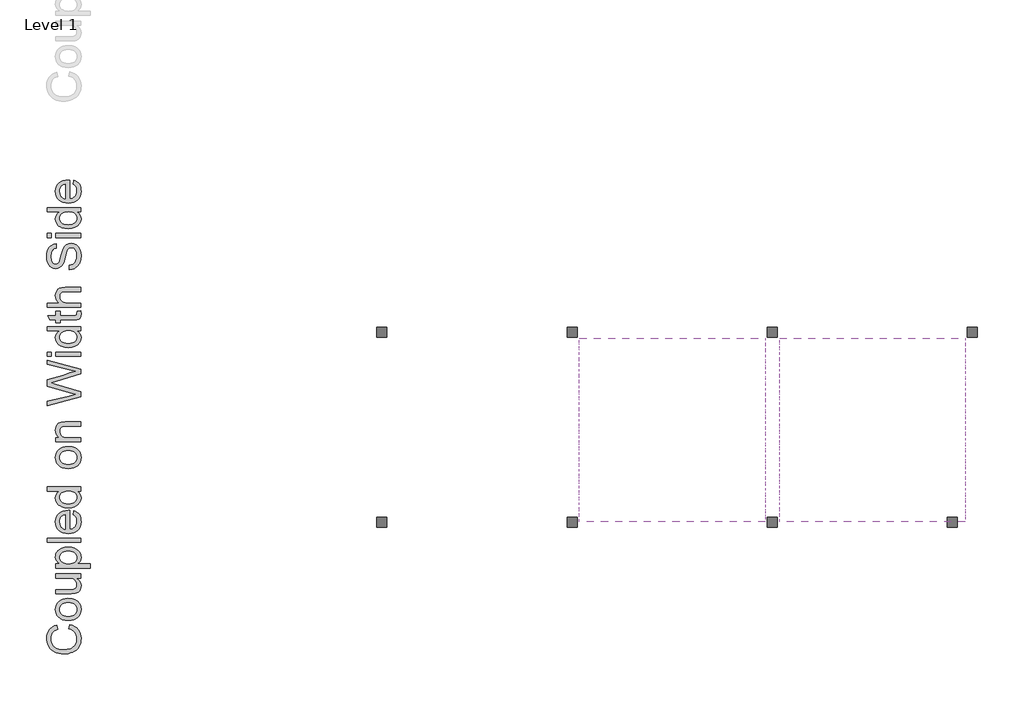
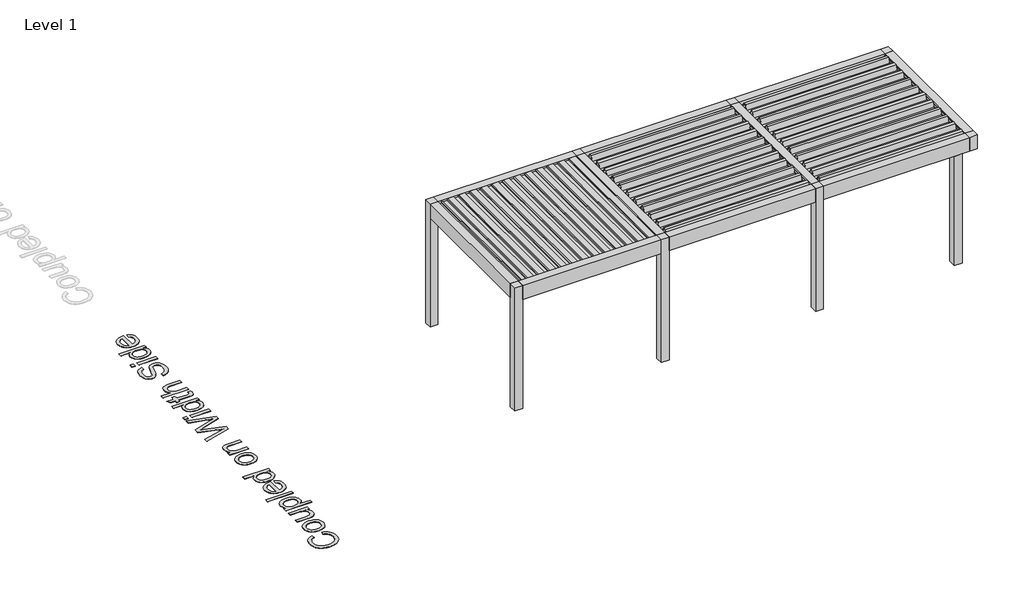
# One storey, part 46 of 80: 4 proxies.
"""IFC4 building model written with IfcOpenShell, lengths in millimetres."""

from ifc_helpers import new_model, si_unit, origin, origin_with_axes, place, context, project, spatial, polyline, outline, extrude, transform, mapped, element, save
from components import generic_models_4f0bc909, generic_models_67e6f143

model = new_model("IFC4")

# Units and contexts
model_context = context("Model", 3, world=origin())
ifc_project = project(units=[si_unit("LENGTHUNIT", "METRE", prefix="MILLI")], contexts=[model_context])

# Site, building, storey
site = spatial("IfcSite", under=ifc_project)
building = spatial("IfcBuilding", under=site)
storey = spatial("IfcBuildingStorey", under=building, Name="Level 1", Elevation=0.0)

# Proxies
placement = place(None, origin())
generic_models_shape = generic_models_4f0bc909(model_context)
element("IfcBuildingElementProxy", 1, Name="Renson_Amani_Fixed_Roof : Renson_Amani_Fixed_Roof", ObjectType="Renson_Amani_Fixed_Roof : Renson_Amani_Fixed_Roof", at=placement, inside=storey, context=model_context, shape_type="MappedRepresentation", body=[
    mapped(generic_models_shape, transform((84673.165057, 45689.8912474, 0.0), x_axis=(0.0, 1.0, 0.0), y_axis=(-1.0, 0.0, 0.0), z_axis=(0.0, 0.0, 1.0))),
])
element("IfcBuildingElementProxy", 2, Name="Renson_Amani_Fixed_Roof : Renson_Amani_Fixed_Roof", ObjectType="Renson_Amani_Fixed_Roof : Renson_Amani_Fixed_Roof", at=placement, inside=storey, context=model_context, shape_type="MappedRepresentation", body=[
    mapped(generic_models_shape, transform((87673.165057, 45689.8912474, 0.0), x_axis=(0.0, 1.0, 0.0), y_axis=(-1.0, 0.0, 0.0), z_axis=(0.0, 0.0, 1.0))),
])
generic_models_2_shape = generic_models_67e6f143(model_context)
element("IfcBuildingElementProxy", 3, Name="Renson_Amani_Patio_Cover : Renson_Amani_Patio_Cover", ObjectType="Renson_Amani_Patio_Cover : Renson_Amani_Patio_Cover", at=placement, inside=storey, context=model_context, shape_type="MappedRepresentation", body=[
    mapped(generic_models_2_shape, transform((80353.165057, 47104.0136657, 0.0), x_axis=(1.0, 0.0, 0.0), y_axis=(0.0, 1.0, 0.0), z_axis=(0.0, 0.0, 1.0))),
])
element("IfcBuildingElementProxy", 4, Name="500mm Arial", ObjectType="500mm Arial", at=placement, inside=storey, context=model_context, shape_type="SweptSolid", body=[
    extrude(outline(polyline([(74234.4472638, 44082.6564057), (74250.6340716, 44145.4415995), (74289.6793805, 44133.017918), (74323.7966034, 44116.4708924), (74352.9857405, 44095.8005228), (74377.2467916, 44071.0068092), (74396.3191738, 44042.6492387), (74409.942304, 44011.2872986), (74418.116182, 43976.9209889), (74420.8408081, 43939.5503096), (74418.779136, 43901.2637573), (74412.59412, 43866.7250029), (74402.2857599, 43835.9340464), (74387.8540558, 43808.8908876), (74369.5136055, 43785.2238126), (74347.4790069, 43764.5611072), (74321.7502598, 43746.9027714), (74292.3273644, 43732.2488053), (74260.4825792, 43720.7409966), (74227.4881628, 43712.5211333), (74193.3441151, 43707.5892153), (74158.0504362, 43705.9452426), (74120.1815833, 43707.8038131), (74084.8112623, 43713.3795246), (74051.9394732, 43722.6723771), (74021.566216, 43735.6823706), (73994.1934963, 43752.1182651), (73970.3233197, 43771.6888208), (73949.9556863, 43794.3940377), (73933.0905961, 43820.2339158), (73919.8660048, 43848.3309032), (73910.4198682, 43877.807448), (73904.7521862, 43908.6635504), (73902.8629589, 43940.8992102), (73905.3078413, 43976.8098579), (73912.6424886, 44009.7391286), (73924.8669007, 44039.6870222), (73941.9810777, 44066.6535389), (73963.5328312, 44090.1941545), (73989.0699731, 44109.8643449), (74018.5925032, 44125.6641102), (74052.1004216, 44137.5934503), (74067.060956, 44074.8082565), (74042.3707092, 44064.9214278), (74021.2749761, 44053.0419051), (74003.7737566, 44039.1696882), (73989.8670507, 44023.3047771), (73979.2712828, 44005.3552014), (73971.7028772, 43985.2289906), (73967.1618338, 43962.9261447), (73965.6481527, 43938.4466636), (73967.3266143, 43910.2806983), (73972.3619991, 43884.5212945), (73980.7543071, 43861.168452), (73992.5035383, 43840.2221709), (74007.0808624, 43821.9468663), (74023.9574489, 43806.6069536), (74043.1332979, 43794.2024325), (74064.6084094, 43784.7333033), (74110.563002, 43772.7311532), (74157.9278088, 43768.7304365), (74215.9305368, 43773.4669172), (74266.0851154, 43787.6763592), (74287.7403358, 43798.4675644), (74306.4754928, 43811.8952572), (74322.2905865, 43827.9594377), (74335.1856169, 43846.6601058), (74352.3381149, 43888.3380702), (74358.0556142, 43933.2963156), (74356.1089053, 43960.5923933), (74350.2687787, 43985.7041715), (74340.5352342, 44008.6316505), (74326.908272, 44029.3748301), (74309.4492056, 44047.443201), (74288.2193488, 44062.3462539), (74263.2187015, 44074.0839888), (74234.4472638, 44082.6564057)])), origin_with_axes(), (0.0, 0.0, 1.0), 5.0),
    extrude(outline(polyline([(74228.5611519, 44208.2267934), (74180.790142, 44211.6220376), (74139.6256796, 44221.8077704), (74105.0677647, 44238.7839916), (74077.1163972, 44262.5507013), (74059.2511278, 44286.4783594), (74046.4902211, 44312.889221), (74038.8336771, 44341.783286), (74036.2814958, 44373.1605545), (74039.3893322, 44407.7989437), (74048.7128415, 44439.1187306), (74064.2520237, 44467.1199154), (74086.0068788, 44491.802498), (74113.2416427, 44511.9478693), (74145.2205516, 44526.3374203), (74181.9436053, 44534.9711509), (74223.410804, 44537.8490611), (74286.8397913, 44532.7600268), (74312.8751067, 44526.398734), (74335.1243032, 44517.492924), (74354.3423053, 44506.1537279), (74371.2840376, 44492.4922767), (74385.9495001, 44476.5085705), (74398.3386927, 44458.2026091), (74415.2152792, 44417.4750065), (74420.8408081, 44373.1605545), (74417.7444679, 44338.0163277), (74408.4554476, 44306.4053008), (74392.9737469, 44278.327474), (74371.299366, 44253.7828471), (74343.8001869, 44233.8520736), (74310.8440915, 44219.6158068), (74272.4310798, 44211.0740467), (74228.5611519, 44208.2267934)]), holes=[polyline([(74228.4385246, 44271.0119872), (74258.892256, 44272.8284046), (74285.2609644, 44278.2776566), (74307.5446499, 44287.3597434), (74325.7433123, 44300.0746648), (74339.8799444, 44315.541037), (74349.9775387, 44332.8774761), (74356.0360954, 44352.0839819), (74358.0556142, 44373.1605545), (74356.024599, 44394.1298283), (74349.9315535, 44413.259692), (74339.7764776, 44430.5501458), (74325.5593713, 44446.0011896), (74307.1806, 44458.716111), (74284.5405289, 44467.7981978), (74257.639158, 44473.2474499), (74226.4764873, 44475.0638672), (74196.9884461, 44473.2359535), (74171.3095164, 44467.7522126), (74149.4396982, 44458.6126442), (74131.3789915, 44445.8172486), (74117.2423594, 44430.3087232), (74107.1447651, 44413.0297658), (74101.0862085, 44393.9803762), (74099.0666896, 44373.1605545), (74101.0785443, 44352.0839819), (74107.1141083, 44332.8774761), (74117.1733816, 44315.541037), (74131.2563642, 44300.0746648), (74149.4013772, 44287.3597434), (74171.6467416, 44278.2776566), (74197.9924574, 44272.8284046), (74228.4385246, 44271.0119872)])]), origin_with_axes(), (0.0, 0.0, 1.0), 5.0),
    extrude(outline(polyline([(74412.9926588, 44843.926881), (74349.5943283, 44843.926881), (74380.7646632, 44821.2101678), (74403.0291881, 44794.753321), (74416.3879031, 44764.5563406), (74420.8408081, 44730.6192265), (74417.7138111, 44700.0390357), (74408.3328202, 44671.5741663), (74394.2306771, 44647.6924934), (74376.9402233, 44630.8618922), (74355.9402927, 44619.5341924), (74330.7097192, 44612.1612241), (74272.3391093, 44608.4824041), (74044.129645, 44608.4824041), (74044.129645, 44671.267598), (74242.7859224, 44671.267598), (74306.7973896, 44675.0690453), (74328.1498737, 44684.2201099), (74344.3826667, 44699.9010799), (74354.6373773, 44721.0696231), (74358.0556142, 44746.683407), (74354.5607353, 44773.7687189), (74344.0760984, 44799.1065913), (74327.5673939, 44819.9992229), (74306.0003119, 44833.7488125), (74276.4624534, 44841.3823639), (74236.0414192, 44843.926881), (74044.129645, 44843.926881), (74044.129645, 44906.7120749), (74412.9926588, 44906.7120749), (74412.9926588, 44843.926881)])), origin_with_axes(), (0.0, 0.0, 1.0), 5.0),
    extrude(outline(polyline([(74554.259345, 44993.0417164), (74044.129645, 44993.0417164), (74044.129645, 45055.8269103), (74105.6885655, 45055.8269103), (74075.3229725, 45076.3056747), (74053.6332632, 45099.2369857), (74040.6194376, 45125.969744), (74036.2814958, 45157.8528503), (74037.799009, 45179.7494932), (74042.3515487, 45200.3125639), (74049.9391148, 45219.5420623), (74060.5617075, 45237.4379885), (74073.943415, 45253.6094679), (74089.8083261, 45267.6656258), (74128.9877586, 45289.4319772), (74175.2489195, 45302.5837585), (74225.7407233, 45306.9676856), (74279.4361662, 45302.0166071), (74327.460095, 45287.1633716), (74348.735937, 45276.1422401), (74367.3752914, 45262.8831599), (74383.3781582, 45247.3861308), (74396.7445374, 45229.651153), (74414.8167404, 45190.9469014), (74420.8408081, 45150.2499557), (74416.8094345, 45121.3865475), (74404.7153139, 45095.6194794), (74386.4591699, 45073.5618881), (74363.9417261, 45055.8269103), (74554.259345, 45055.8269103), (74554.259345, 44993.0417164)]), holes=[polyline([(74231.5042079, 45055.8269103), (74261.762502, 45057.5245324), (74287.7901531, 45062.6173988), (74309.5871614, 45071.1055094), (74327.1535266, 45082.9888642), (74340.6731899, 45097.2941089), (74350.3300923, 45113.0478889), (74356.1242337, 45130.2502043), (74358.0556142, 45148.901055), (74356.0552559, 45167.8201531), (74350.0541808, 45185.336701), (74340.0523891, 45201.4506988), (74326.0498806, 45216.1621465), (74307.8473861, 45228.4210476), (74285.245636, 45237.1774055), (74258.2446304, 45242.4312202), (74226.8443693, 45244.1824918), (74196.8466583, 45242.4733734), (74170.8649923, 45237.346018), (74148.8993715, 45228.8004259), (74130.9497959, 45216.8365968), (74117.0009369, 45202.4968632), (74107.0374662, 45186.8235574), (74101.0593838, 45169.8166793), (74099.0666896, 45151.476229), (74101.1858432, 45133.1932603), (74107.5433039, 45115.9909449), (74118.1390718, 45099.8692829), (74132.9731468, 45084.8282742), (74151.8462596, 45072.1401775), (74174.5591407, 45063.0772512), (74201.1117901, 45057.6394955), (74231.5042079, 45055.8269103)])]), origin_with_axes(), (0.0, 0.0, 1.0), 5.0),
    extrude(outline(polyline([(74412.9926588, 45377.6010287), (73910.7111081, 45377.6010287), (73910.7111081, 45440.3862226), (74412.9926588, 45440.3862226), (74412.9926588, 45377.6010287)])), origin_with_axes(), (0.0, 0.0, 1.0), 5.0),
    extrude(outline(polyline([(74303.1185696, 45792.8171739), (74310.9667188, 45854.3760945), (74335.6224767, 45844.937622), (74357.3505071, 45832.1958758), (74376.1508099, 45816.1508559), (74392.0233851, 45796.8025622), (74404.6310077, 45774.3502642), (74413.6364523, 45748.9932313), (74419.0397191, 45720.7314634), (74420.8408081, 45689.5649606), (74417.7329716, 45650.6077902), (74408.4094623, 45615.8965911), (74392.8702801, 45585.4313634), (74371.115425, 45559.212107), (74343.7503696, 45538.1278701), (74311.3805861, 45523.067701), (74274.0060746, 45514.0315995), (74231.6268352, 45511.0195656), (74187.8105567, 45514.0622563), (74149.1906115, 45523.1903283), (74115.7669994, 45538.4037816), (74087.5397204, 45559.7026163), (74065.1142471, 45585.8528948), (74049.0960519, 45615.6206796), (74039.4851348, 45649.0059706), (74036.2814958, 45686.008768), (74039.4774706, 45721.819781), (74049.0653951, 45754.2048929), (74065.0452693, 45783.1641037), (74087.4170931, 45808.6974134), (74115.5830584, 45829.5402277), (74148.9453568, 45844.4279522), (74187.5039884, 45853.3605869), (74231.2589532, 45856.3381318), (74248.181525, 45855.9702498), (74248.181525, 45573.8047595), (74273.2358217, 45577.4414263), (74295.1784499, 45584.6726067), (74314.0094095, 45595.4983009), (74329.7287006, 45609.9185087), (74342.1217253, 45627.1361525), (74350.9738858, 45646.3541546), (74356.2851821, 45667.5725151), (74358.0556142, 45690.7912339), (74354.7753331, 45724.2071818), (74344.9344897, 45752.3501545), (74327.9199474, 45775.2201518), (74303.1185696, 45792.8171739)]), holes=[polyline([(74185.3963312, 45573.8047595), (74185.3963312, 45793.5529379), (74152.2256379, 45785.0609952), (74128.4972492, 45768.4143349), (74115.6213794, 45751.2924937), (74106.4243295, 45731.8100764), (74100.9060996, 45709.9670829), (74099.0666896, 45685.7635133), (74104.9374731, 45643.4417555), (74112.2759525, 45625.0284952), (74122.5498236, 45608.4469807), (74135.2839056, 45594.5326106), (74150.0030175, 45584.1207838), (74166.7071594, 45577.2115), (74185.3963312, 45573.8047595)])]), origin_with_axes(), (0.0, 0.0, 1.0), 5.0),
    extrude(outline(polyline([(74412.9926588, 46146.7196533), (74353.7636576, 46146.7196533), (74383.1099109, 46127.9346789), (74404.0715205, 46105.1796447), (74416.6484862, 46078.4545506), (74420.8408081, 46047.7593966), (74414.7707551, 46007.1697498), (74396.5605964, 45970.0136683), (74367.4825903, 45938.5597577), (74328.8089956, 45915.0766237), (74282.1033106, 45900.4533144), (74228.9290339, 45895.5788779), (74176.4138791, 45900.0701039), (74128.9877586, 45913.543782), (74107.8575365, 45923.6452085), (74089.3484736, 45935.9845837), (74073.4605699, 45950.5619078), (74060.1938255, 45967.3771806), (74042.2595782, 46005.3456682), (74036.2814958, 46047.5141419), (74040.558124, 46078.2322885), (74053.3880085, 46105.3942425), (74073.0543669, 46128.417524), (74097.8404163, 46146.7196533), (73910.7111081, 46146.7196533), (73910.7111081, 46209.5048471), (74412.9926588, 46209.5048471), (74412.9926588, 46146.7196533)]), holes=[polyline([(74228.6837793, 45958.3640718), (74259.1298465, 45960.1345039), (74285.4755623, 45965.4458002), (74307.7209267, 45974.2979607), (74325.8659396, 45986.6909854), (74339.9489223, 46001.4905715), (74350.0081956, 46017.5624162), (74356.0437596, 46034.9065194), (74358.0556142, 46053.5228812), (74356.1357301, 46072.2273814), (74350.3760776, 46089.4680178), (74340.7766568, 46105.2447904), (74327.3374676, 46119.5576993), (74309.9512112, 46131.4410542), (74288.5105887, 46139.9291648), (74263.0156, 46145.0220312), (74233.4662452, 46146.7196533), (74201.069637, 46144.9913743), (74173.2868821, 46139.8065375), (74150.1179807, 46131.1651427), (74131.5629325, 46119.06719), (74117.3458263, 46104.4400486), (74107.1907503, 46088.2110876), (74101.0977048, 46070.3803072), (74099.0666896, 46050.9477072), (74101.0172306, 46031.9634634), (74106.8688536, 46014.6193602), (74116.6215586, 45998.9153975), (74130.2753455, 45984.8515754), (74148.1291186, 45973.2632926), (74170.4817819, 45964.9859477), (74197.3333355, 45960.0195407), (74228.6837793, 45958.3640718)])]), origin_with_axes(), (0.0, 0.0, 1.0), 5.0),
    extrude(outline(polyline([(74228.5611519, 46484.1900702), (74180.790142, 46487.5853144), (74139.6256796, 46497.7710472), (74105.0677647, 46514.7472684), (74077.1163972, 46538.5139782), (74059.2511278, 46562.4416363), (74046.4902211, 46588.8524978), (74038.8336771, 46617.7465629), (74036.2814958, 46649.1238314), (74039.3893322, 46683.7622205), (74048.7128415, 46715.0820074), (74064.2520237, 46743.0831922), (74086.0068788, 46767.7657748), (74113.2416427, 46787.9111462), (74145.2205516, 46802.3006971), (74181.9436053, 46810.9344277), (74223.410804, 46813.8123379), (74286.8397913, 46808.7233036), (74312.8751067, 46802.3620108), (74335.1243032, 46793.4562008), (74354.3423053, 46782.1170047), (74371.2840376, 46768.4555536), (74385.9495001, 46752.4718473), (74398.3386927, 46734.1658859), (74415.2152792, 46693.4382834), (74420.8408081, 46649.1238314), (74417.7444679, 46613.9796045), (74408.4554476, 46582.3685777), (74392.9737469, 46554.2907508), (74371.299366, 46529.7461239), (74343.8001869, 46509.8153504), (74310.8440915, 46495.5790836), (74272.4310798, 46487.0373236), (74228.5611519, 46484.1900702)]), holes=[polyline([(74228.4385246, 46546.975264), (74258.892256, 46548.7916814), (74285.2609644, 46554.2409334), (74307.5446499, 46563.3230202), (74325.7433123, 46576.0379417), (74339.8799444, 46591.5043139), (74349.9775387, 46608.8407529), (74356.0360954, 46628.0472587), (74358.0556142, 46649.1238314), (74356.024599, 46670.0931051), (74349.9315535, 46689.2229688), (74339.7764776, 46706.5134226), (74325.5593713, 46721.9644664), (74307.1806, 46734.6793879), (74284.5405289, 46743.7614746), (74257.639158, 46749.2107267), (74226.4764873, 46751.027144), (74196.9884461, 46749.1992304), (74171.3095164, 46743.7154894), (74149.4396982, 46734.5759211), (74131.3789915, 46721.7805254), (74117.2423594, 46706.2720001), (74107.1447651, 46688.9930426), (74101.0862085, 46669.943653), (74099.0666896, 46649.1238314), (74101.0785443, 46628.0472587), (74107.1141083, 46608.8407529), (74117.1733816, 46591.5043139), (74131.2563642, 46576.0379417), (74149.4013772, 46563.3230202), (74171.6467416, 46554.2409334), (74197.9924574, 46548.7916814), (74228.4385246, 46546.975264)])]), origin_with_axes(), (0.0, 0.0, 1.0), 5.0),
    extrude(outline(polyline([(74412.9926588, 46884.445681), (74044.129645, 46884.445681), (74044.129645, 46947.2308748), (74095.6331243, 46947.2308748), (74069.6667868, 46969.0432114), (74051.1194029, 46995.2394752), (74039.9909726, 47025.819666), (74036.2814958, 47060.783784), (74039.270537, 47091.7318568), (74048.2376606, 47120.0740989), (74062.0638923, 47143.7105171), (74079.6302575, 47160.5411183), (74100.8907712, 47171.9607886), (74125.7994479, 47179.3644138), (74186.4999771, 47182.6753517), (74412.9926588, 47182.6753517), (74412.9926588, 47119.8901579), (74194.961263, 47119.8901579), (74162.495677, 47118.0814047), (74139.4110818, 47112.6551453), (74122.8717204, 47102.6456893), (74110.0418358, 47087.0873466), (74101.8104762, 47067.1450768), (74099.0666896, 47043.9838395), (74100.6071955, 47024.9191215), (74105.228713, 47007.2109684), (74112.9312423, 46990.8593802), (74123.7147833, 46975.8643568), (74138.8056093, 46963.3372084), (74159.4299937, 46954.3892453), (74185.5879364, 46949.0204674), (74217.2794374, 46947.2308748), (74412.9926588, 46947.2308748), (74412.9926588, 46884.445681)])), origin_with_axes(), (0.0, 0.0, 1.0), 5.0),
    extrude(outline(polyline([(74412.9926588, 47562.9427074), (73910.7111081, 47425.9679779), (73910.7111081, 47490.715209), (74240.8238851, 47570.17772), (74342.7271978, 47594.7031863), (74252.5961089, 47620.9454353), (73910.7111081, 47720.5188287), (73910.7111081, 47813.8382281), (74158.5409455, 47886.1883538), (74250.5114443, 47917.1824119), (74342.7271978, 47940.0217524), (74243.7669411, 47963.8114548), (73910.7111081, 48044.0097297), (73910.7111081, 48108.7569609), (74412.9926588, 47971.659604), (74412.9926588, 47904.5824536), (74025.4902906, 47784.1624138), (73971.4116373, 47767.3624694), (74036.5267504, 47748.4778603), (74412.9926588, 47638.7263984), (74412.9926588, 47562.9427074)])), origin_with_axes(), (0.0, 0.0, 1.0), 5.0),
    extrude(outline(polyline([(74412.9926588, 48163.6940055), (74044.129645, 48163.6940055), (74044.129645, 48226.4791994), (74412.9926588, 48226.4791994), (74412.9926588, 48163.6940055)])), origin_with_axes(), (0.0, 0.0, 1.0), 5.0),
    extrude(outline(polyline([(73973.4963019, 48163.6940055), (73910.7111081, 48163.6940055), (73910.7111081, 48226.4791994), (73973.4963019, 48226.4791994), (73973.4963019, 48163.6940055)])), origin_with_axes(), (0.0, 0.0, 1.0), 5.0),
    extrude(outline(polyline([(74412.9926588, 48548.2533178), (74353.7636576, 48548.2533178), (74383.1099109, 48529.4683434), (74404.0715205, 48506.7133092), (74416.6484862, 48479.9882151), (74420.8408081, 48449.2930611), (74414.7707551, 48408.7034143), (74396.5605964, 48371.5473328), (74367.4825903, 48340.0934222), (74328.8089956, 48316.6102882), (74282.1033106, 48301.9869789), (74228.9290339, 48297.1125424), (74176.4138791, 48301.6037685), (74128.9877586, 48315.0774465), (74107.8575365, 48325.178873), (74089.3484736, 48337.5182482), (74073.4605699, 48352.0955723), (74060.1938255, 48368.9108452), (74042.2595782, 48406.8793327), (74036.2814958, 48449.0478064), (74040.558124, 48479.765953), (74053.3880085, 48506.927907), (74073.0543669, 48529.9511885), (74097.8404163, 48548.2533178), (73910.7111081, 48548.2533178), (73910.7111081, 48611.0385116), (74412.9926588, 48611.0385116), (74412.9926588, 48548.2533178)]), holes=[polyline([(74228.6837793, 48359.8977363), (74259.1298465, 48361.6681684), (74285.4755623, 48366.9794647), (74307.7209267, 48375.8316252), (74325.8659396, 48388.2246499), (74339.9489223, 48403.024236), (74350.0081956, 48419.0960807), (74356.0437596, 48436.4401839), (74358.0556142, 48455.0565457), (74356.1357301, 48473.7610459), (74350.3760776, 48491.0016823), (74340.7766568, 48506.778455), (74327.3374676, 48521.0913638), (74309.9512112, 48532.9747187), (74288.5105887, 48541.4628293), (74263.0156, 48546.5556957), (74233.4662452, 48548.2533178), (74201.069637, 48546.5250388), (74173.2868821, 48541.340202), (74150.1179807, 48532.6988072), (74131.5629325, 48520.6008545), (74117.3458263, 48505.9737131), (74107.1907503, 48489.7447522), (74101.0977048, 48471.9139717), (74099.0666896, 48452.4813717), (74101.0172306, 48433.4971279), (74106.8688536, 48416.1530247), (74116.6215586, 48400.449062), (74130.2753455, 48386.3852399), (74148.1291186, 48374.7969571), (74170.4817819, 48366.5196122), (74197.3333355, 48361.5532053), (74228.6837793, 48359.8977363)])]), origin_with_axes(), (0.0, 0.0, 1.0), 5.0),
    extrude(outline(polyline([(74360.6307882, 48838.6348393), (74414.8320688, 48846.4829886), (74420.8408081, 48799.5167205), (74418.2349773, 48769.3810537), (74410.4174849, 48746.9095952), (74398.3693495, 48731.0293557), (74383.0715899, 48720.6673462), (74356.7986841, 48714.9651753), (74311.8251102, 48713.0644516), (74106.9148388, 48713.0644516), (74106.9148388, 48665.9755563), (74044.129645, 48665.9755563), (74044.129645, 48713.0644516), (73954.4890655, 48713.0644516), (73917.5782387, 48775.8496455), (74044.129645, 48775.8496455), (74044.129645, 48838.6348393), (74106.9148388, 48838.6348393), (74106.9148388, 48775.8496455), (74309.9857002, 48775.8496455), (74342.3593158, 48779.1605834), (74353.8249713, 48789.890475), (74358.0556142, 48811.2889444), (74360.6307882, 48838.6348393)])), origin_with_axes(), (0.0, 0.0, 1.0), 5.0),
    extrude(outline(polyline([(74412.9926588, 48901.4200332), (73910.7111081, 48901.4200332), (73910.7111081, 48964.205227), (74095.3878697, 48964.205227), (74069.5288311, 48987.2668296), (74051.0580892, 49013.1641892), (74039.9756441, 49041.8973059), (74036.2814958, 49073.4661796), (74040.3128693, 49111.3886819), (74052.4069899, 49143.9768953), (74071.6134957, 49169.6366645), (74096.982025, 49186.7738341), (74131.838844, 49196.4307365), (74179.5102192, 49199.6497039), (74412.9926588, 49199.6497039), (74412.9926588, 49136.8645101), (74186.0094678, 49136.8645101), (74146.707408, 49131.8674463), (74131.7008883, 49125.6211166), (74119.7907087, 49116.876255), (74110.7239503, 49105.8397952), (74104.2476944, 49092.7186707), (74099.0666896, 49060.2224278), (74102.5615686, 49033.6889389), (74113.0462054, 49008.7802621), (74129.5089247, 48988.1482135), (74150.9380509, 48974.4446092), (74179.4182487, 48966.7650726), (74217.0341827, 48964.205227), (74412.9926588, 48964.205227), (74412.9926588, 48901.4200332)])), origin_with_axes(), (0.0, 0.0, 1.0), 5.0),
    extrude(outline(polyline([(74240.3333758, 49466.4867778), (74240.3333758, 49529.2719716), (74275.1748664, 49536.4763273), (74303.1798833, 49549.5054813), (74325.4060871, 49569.8309616), (74342.9111388, 49598.924296), (74354.2694954, 49634.4862222), (74358.0556142, 49674.2174777), (74355.1892003, 49709.1969241), (74346.5899587, 49739.8231002), (74332.9783249, 49764.6398064), (74315.0747345, 49782.1908433), (74294.519328, 49792.6294949), (74272.952246, 49796.1090454), (74251.936987, 49793.5032146), (74233.7728135, 49785.6857222), (74218.2757845, 49769.8054828), (74205.2619589, 49743.0114108), (74181.2883155, 49651.592735), (74165.4234045, 49591.5819845), (74150.3249143, 49553.1843013), (74129.2023564, 49521.9296601), (74103.6039009, 49499.7800983), (74074.0813708, 49486.5823318), (74041.186589, 49482.1830762), (74004.4137179, 49487.6246641), (73970.1240503, 49503.9494276), (73954.5963644, 49516.0857013), (73941.0613727, 49530.7281712), (73919.9694716, 49567.5316991), (73907.139587, 49611.7081954), (73902.8629589, 49660.6058439), (73907.3388565, 49713.5808512), (73920.7665493, 49759.9339826), (73942.8701258, 49798.0097691), (73957.0719037, 49813.3228571), (73973.3736746, 49826.1527417), (74010.3764719, 49843.9643617), (74051.9777942, 49851.0460901), (74051.9777942, 49788.2608962), (74031.9435539, 49784.0609101), (74014.5151444, 49776.733927), (73999.6925657, 49766.279947), (73987.4758177, 49752.69897), (73977.9262143, 49735.7380772), (73971.105069, 49715.1443497), (73965.6481527, 49663.0583905), (73971.0437553, 49609.7461581), (73977.7882585, 49589.3670284), (73987.2305631, 49573.1725564), (73998.5812555, 49560.8331811), (74011.0509223, 49552.0193416), (74024.6395635, 49546.731038), (74039.3471791, 49544.9682701), (74063.4741066, 49549.9653338), (74082.8798818, 49564.9565251), (74091.5097803, 49578.7214431), (74100.2316493, 49600.395824), (74117.9512987, 49667.4729745), (74134.7819, 49736.6961032), (74149.466523, 49778.573337), (74172.2445498, 49814.3651895), (74200.3568656, 49839.3351799), (74233.496902, 49854.0044744), (74271.3580907, 49858.8942393), (74310.0623423, 49853.2687104), (74346.4673314, 49836.3921239), (74377.7986146, 49808.9542584), (74401.2817487, 49771.6448928), (74415.9510432, 49726.7786178), (74420.8408081, 49676.6700243), (74415.5678328, 49615.1570891), (74408.9766137, 49588.4818123), (74399.748907, 49564.5273295), (74387.8693842, 49543.1480206), (74373.322717, 49524.1982658), (74356.1089053, 49507.6780649), (74336.2279492, 49493.5874181), (74314.323642, 49482.2367257), (74291.0397774, 49473.9363882), (74266.3763553, 49468.6864055), (74240.3333758, 49466.4867778)])), origin_with_axes(), (0.0, 0.0, 1.0), 5.0),
    extrude(outline(polyline([(74412.9926588, 49945.2238808), (74044.129645, 49945.2238808), (74044.129645, 50008.0090747), (74412.9926588, 50008.0090747), (74412.9926588, 49945.2238808)])), origin_with_axes(), (0.0, 0.0, 1.0), 5.0),
    extrude(outline(polyline([(73973.4963019, 49945.2238808), (73910.7111081, 49945.2238808), (73910.7111081, 50008.0090747), (73973.4963019, 50008.0090747), (73973.4963019, 49945.2238808)])), origin_with_axes(), (0.0, 0.0, 1.0), 5.0),
    extrude(outline(polyline([(74412.9926588, 50329.7831931), (74353.7636576, 50329.7831931), (74383.1099109, 50310.9982187), (74404.0715205, 50288.2431845), (74416.6484862, 50261.5180904), (74420.8408081, 50230.8229364), (74414.7707551, 50190.2332896), (74396.5605964, 50153.0772081), (74367.4825903, 50121.6232975), (74328.8089956, 50098.1401635), (74282.1033106, 50083.5168542), (74228.9290339, 50078.6424177), (74176.4138791, 50083.1336438), (74128.9877586, 50096.6073218), (74107.8575365, 50106.7087483), (74089.3484736, 50119.0481235), (74073.4605699, 50133.6254476), (74060.1938255, 50150.4407205), (74042.2595782, 50188.4092081), (74036.2814958, 50230.5776817), (74040.558124, 50261.2958283), (74053.3880085, 50288.4577823), (74073.0543669, 50311.4810639), (74097.8404163, 50329.7831931), (73910.7111081, 50329.7831931), (73910.7111081, 50392.568387), (74412.9926588, 50392.568387), (74412.9926588, 50329.7831931)]), holes=[polyline([(74228.6837793, 50141.4276116), (74259.1298465, 50143.1980437), (74285.4755623, 50148.50934), (74307.7209267, 50157.3615005), (74325.8659396, 50169.7545252), (74339.9489223, 50184.5541113), (74350.0081956, 50200.625956), (74356.0437596, 50217.9700592), (74358.0556142, 50236.586421), (74356.1357301, 50255.2909212), (74350.3760776, 50272.5315576), (74340.7766568, 50288.3083303), (74327.3374676, 50302.6212391), (74309.9512112, 50314.504594), (74288.5105887, 50322.9927046), (74263.0156, 50328.085571), (74233.4662452, 50329.7831931), (74201.069637, 50328.0549142), (74173.2868821, 50322.8700773), (74150.1179807, 50314.2286825), (74131.5629325, 50302.1307298), (74117.3458263, 50287.5035884), (74107.1907503, 50271.2746275), (74101.0977048, 50253.443847), (74099.0666896, 50234.011247), (74101.0172306, 50215.0270032), (74106.8688536, 50197.6829), (74116.6215586, 50181.9789373), (74130.2753455, 50167.9151152), (74148.1291186, 50156.3268324), (74170.4817819, 50148.0494875), (74197.3333355, 50143.0830806), (74228.6837793, 50141.4276116)])]), origin_with_axes(), (0.0, 0.0, 1.0), 5.0),
    extrude(outline(polyline([(74303.1185696, 50744.9993383), (74310.9667188, 50806.5582589), (74335.6224767, 50797.1197864), (74357.3505071, 50784.3780402), (74376.1508099, 50768.3330203), (74392.0233851, 50748.9847266), (74404.6310077, 50726.5324286), (74413.6364523, 50701.1753957), (74419.0397191, 50672.9136278), (74420.8408081, 50641.747125), (74417.7329716, 50602.7899546), (74408.4094623, 50568.0787555), (74392.8702801, 50537.6135278), (74371.115425, 50511.3942714), (74343.7503696, 50490.3100346), (74311.3805861, 50475.2498654), (74274.0060746, 50466.2137639), (74231.6268352, 50463.20173), (74187.8105567, 50466.2444207), (74149.1906115, 50475.3724927), (74115.7669994, 50490.585946), (74087.5397204, 50511.8847807), (74065.1142471, 50538.0350592), (74049.0960519, 50567.802844), (74039.4851348, 50601.1881351), (74036.2814958, 50638.1909324), (74039.4774706, 50674.0019454), (74049.0653951, 50706.3870573), (74065.0452693, 50735.3462681), (74087.4170931, 50760.8795778), (74115.5830584, 50781.7223921), (74148.9453568, 50796.6101166), (74187.5039884, 50805.5427513), (74231.2589532, 50808.5202962), (74248.181525, 50808.1524142), (74248.181525, 50525.9869239), (74273.2358217, 50529.6235907), (74295.1784499, 50536.8547711), (74314.0094095, 50547.6804653), (74329.7287006, 50562.1006731), (74342.1217253, 50579.3183169), (74350.9738858, 50598.536319), (74356.2851821, 50619.7546795), (74358.0556142, 50642.9733983), (74354.7753331, 50676.3893462), (74344.9344897, 50704.5323189), (74327.9199474, 50727.4023162), (74303.1185696, 50744.9993383)]), holes=[polyline([(74185.3963312, 50525.9869239), (74185.3963312, 50745.7351023), (74152.2256379, 50737.2431596), (74128.4972492, 50720.5964993), (74115.6213794, 50703.4746581), (74106.4243295, 50683.9922408), (74100.9060996, 50662.1492473), (74099.0666896, 50637.9456777), (74104.9374731, 50595.6239199), (74112.2759525, 50577.2106596), (74122.5498236, 50560.6291451), (74135.2839056, 50546.714775), (74150.0030175, 50536.3029482), (74166.7071594, 50529.3936644), (74185.3963312, 50525.9869239)])]), origin_with_axes(), (0.0, 0.0, 1.0), 5.0),
])

save(model, "model.ifc")
